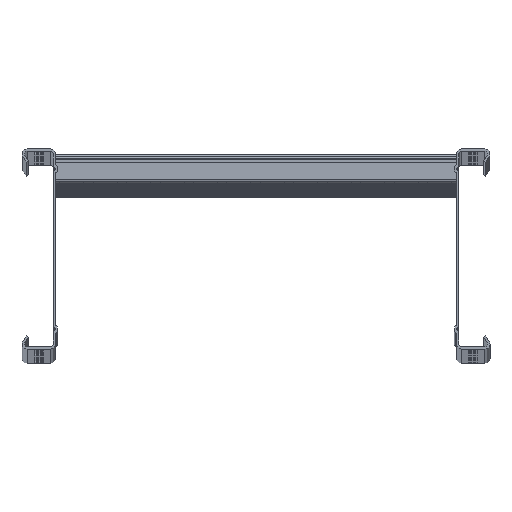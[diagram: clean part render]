
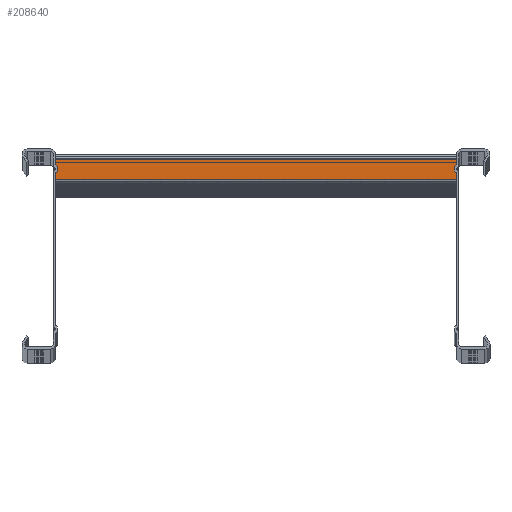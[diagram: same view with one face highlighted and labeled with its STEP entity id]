
A CAD part, top view. The second image highlights one B-rep face of the part: STEP entity #208640.
In plain terms, the highlighted planar face has unit normal (0, 0, 1) as drawn and (1, 0, 0) by its records, which use the part's own axes.
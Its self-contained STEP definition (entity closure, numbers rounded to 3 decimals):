
#204850=CARTESIAN_POINT('',(39.75,881.,300.));
#204860=VERTEX_POINT('',#204850);
#204890=CARTESIAN_POINT('',(39.75,0.,300.));
#204900=DIRECTION('',(0.,-1.,0.));
#204910=VECTOR('',#204900,1.);
#204920=LINE('',#204890,#204910);
#204930=CARTESIAN_POINT('',(39.75,897.,300.));
#204940=VERTEX_POINT('',#204930);
#204950=EDGE_CURVE('',#204940,#204860,#204920,.T.);
#208340=CARTESIAN_POINT('',(39.75,900.,0.));
#208350=DIRECTION('',(1.,0.,0.));
#208360=DIRECTION('',(0.,-1.,0.));
#208370=AXIS2_PLACEMENT_3D('',#208340,#208350,#208360);
#208380=PLANE('',#208370);
#208390=ORIENTED_EDGE('',*,*,#204950,.F.);
#208400=CARTESIAN_POINT('',(39.75,881.,0.));
#208410=DIRECTION('',(0.,0.,1.));
#208420=VECTOR('',#208410,1.);
#208430=LINE('',#208400,#208420);
#208440=CARTESIAN_POINT('',(39.75,881.,600.));
#208450=VERTEX_POINT('',#208440);
#208460=EDGE_CURVE('',#204860,#208450,#208430,.T.);
#208470=ORIENTED_EDGE('',*,*,#208460,.F.);
#208480=CARTESIAN_POINT('',(39.75,0.,600.));
#208490=DIRECTION('',(0.,1.,0.));
#208500=VECTOR('',#208490,1.);
#208510=LINE('',#208480,#208500);
#208520=CARTESIAN_POINT('',(39.75,897.,600.));
#208530=VERTEX_POINT('',#208520);
#208540=EDGE_CURVE('',#208450,#208530,#208510,.T.);
#208550=ORIENTED_EDGE('',*,*,#208540,.F.);
#208560=CARTESIAN_POINT('',(39.75,897.,0.));
#208570=DIRECTION('',(0.,0.,1.));
#208580=VECTOR('',#208570,1.);
#208590=LINE('',#208560,#208580);
#208600=EDGE_CURVE('',#204940,#208530,#208590,.T.);
#208610=ORIENTED_EDGE('',*,*,#208600,.T.);
#208620=EDGE_LOOP('',(#208610,#208550,#208470,#208390));
#208630=FACE_OUTER_BOUND('',#208620,.T.);
#208640=ADVANCED_FACE('',(#208630),#208380,.T.);
